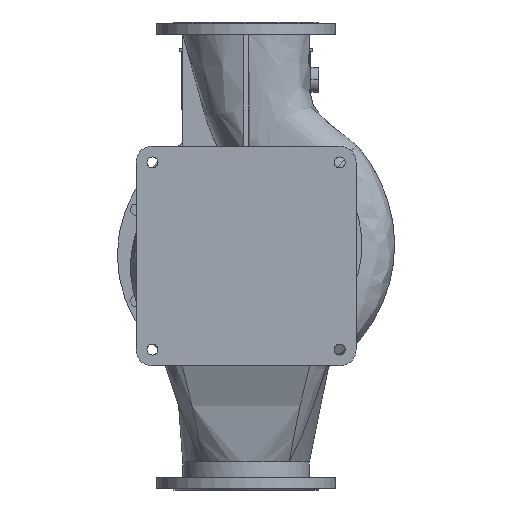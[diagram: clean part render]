
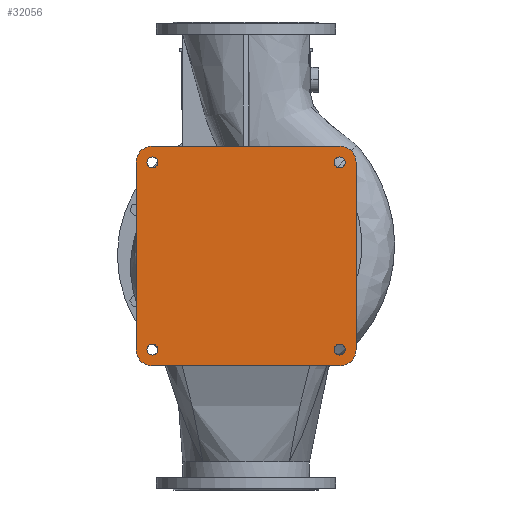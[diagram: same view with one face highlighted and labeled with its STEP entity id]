
A CAD part, front view. The second image highlights one B-rep face of the part: STEP entity #32056.
In plain terms, the highlighted planar face has unit normal (0, -1, 0).
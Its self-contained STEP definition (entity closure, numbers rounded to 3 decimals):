
#319 = ORIENTED_EDGE ( 'NONE', *, *, #35698, .F. ) ;
#1042 = CIRCLE ( 'NONE', #11789, 42. ) ;
#1103 = FACE_OUTER_BOUND ( 'NONE', #26107, .T. ) ;
#1633 = LINE ( 'NONE', #1826, #21418 ) ;
#1659 = CARTESIAN_POINT ( 'NONE',  ( -240., -290., 226. ) ) ;
#1826 = CARTESIAN_POINT ( 'NONE',  ( 240., -290., 282. ) ) ;
#1848 = VECTOR ( 'NONE', #17960, 1000. ) ;
#1881 = VERTEX_POINT ( 'NONE', #4275 ) ;
#2366 = ORIENTED_EDGE ( 'NONE', *, *, #20166, .T. ) ;
#2645 = EDGE_LOOP ( 'NONE', ( #7158, #16593 ) ) ;
#3007 = DIRECTION ( 'NONE',  ( 0., 1., 0. ) ) ;
#3057 = VERTEX_POINT ( 'NONE', #34035 ) ;
#3135 = CARTESIAN_POINT ( 'NONE',  ( 240., -290., 240. ) ) ;
#3471 = CIRCLE ( 'NONE', #14840, 14. ) ;
#3566 = CARTESIAN_POINT ( 'NONE',  ( 240., -290., -282. ) ) ;
#3979 = EDGE_LOOP ( 'NONE', ( #5306, #2366 ) ) ;
#4050 = EDGE_CURVE ( 'NONE', #24872, #20059, #33347, .T. ) ;
#4093 = FACE_BOUND ( 'NONE', #31628, .T. ) ;
#4147 = CARTESIAN_POINT ( 'NONE',  ( 240., -290., 226. ) ) ;
#4275 = CARTESIAN_POINT ( 'NONE',  ( 282., -290., 240. ) ) ;
#4721 = DIRECTION ( 'NONE',  ( 0., 1., 0. ) ) ;
#4808 = ORIENTED_EDGE ( 'NONE', *, *, #9097, .F. ) ;
#4872 = DIRECTION ( 'NONE',  ( 0., 0., -1. ) ) ;
#4981 = CARTESIAN_POINT ( 'NONE',  ( -240., -290., -254. ) ) ;
#5306 = ORIENTED_EDGE ( 'NONE', *, *, #35617, .T. ) ;
#5307 = VECTOR ( 'NONE', #32111, 1000. ) ;
#5351 = EDGE_CURVE ( 'NONE', #19913, #24872, #1042, .T. ) ;
#6454 = CARTESIAN_POINT ( 'NONE',  ( 282., -290., -240. ) ) ;
#7158 = ORIENTED_EDGE ( 'NONE', *, *, #8597, .T. ) ;
#7234 = CARTESIAN_POINT ( 'NONE',  ( -282., -290., -240. ) ) ;
#7236 = CARTESIAN_POINT ( 'NONE',  ( -240., -290., 254. ) ) ;
#7595 = AXIS2_PLACEMENT_3D ( 'NONE', #23559, #9318, #9498 ) ;
#7682 = DIRECTION ( 'NONE',  ( 0., 1., 0. ) ) ;
#7965 = AXIS2_PLACEMENT_3D ( 'NONE', #32744, #34826, #12161 ) ;
#8457 = VERTEX_POINT ( 'NONE', #4147 ) ;
#8597 = EDGE_CURVE ( 'NONE', #30197, #17224, #26234, .T. ) ;
#9097 = EDGE_CURVE ( 'NONE', #1881, #19913, #20901, .T. ) ;
#9156 = LINE ( 'NONE', #20773, #1848 ) ;
#9318 = DIRECTION ( 'NONE',  ( 0., 1., 0. ) ) ;
#9415 = DIRECTION ( 'NONE',  ( 0., 1., 0. ) ) ;
#9498 = DIRECTION ( 'NONE',  ( 0., 0., 1. ) ) ;
#9894 = FACE_BOUND ( 'NONE', #2645, .T. ) ;
#10063 = AXIS2_PLACEMENT_3D ( 'NONE', #16325, #19874, #27754 ) ;
#10108 = VERTEX_POINT ( 'NONE', #7236 ) ;
#10268 = DIRECTION ( 'NONE',  ( 0., 1., 0. ) ) ;
#10559 = EDGE_CURVE ( 'NONE', #8457, #34090, #18556, .T. ) ;
#10857 = CARTESIAN_POINT ( 'NONE',  ( -240., -290., 240. ) ) ;
#11512 = VERTEX_POINT ( 'NONE', #36256 ) ;
#11789 = AXIS2_PLACEMENT_3D ( 'NONE', #28677, #3007, #25867 ) ;
#12161 = DIRECTION ( 'NONE',  ( 0., 0., -1. ) ) ;
#13139 = CARTESIAN_POINT ( 'NONE',  ( 282., -290., -240. ) ) ;
#13177 = AXIS2_PLACEMENT_3D ( 'NONE', #10857, #7682, #4872 ) ;
#13189 = CARTESIAN_POINT ( 'NONE',  ( -282., -290., 240. ) ) ;
#13437 = DIRECTION ( 'NONE',  ( 1., 0., 0. ) ) ;
#13681 = EDGE_CURVE ( 'NONE', #20059, #17701, #32376, .T. ) ;
#13688 = DIRECTION ( 'NONE',  ( -1., 0., 0. ) ) ;
#13840 = CARTESIAN_POINT ( 'NONE',  ( -240., -290., 240. ) ) ;
#14352 = VERTEX_POINT ( 'NONE', #13189 ) ;
#14562 = DIRECTION ( 'NONE',  ( 0., 0., -1. ) ) ;
#14840 = AXIS2_PLACEMENT_3D ( 'NONE', #35922, #10268, #21701 ) ;
#14861 = DIRECTION ( 'NONE',  ( 0., 1., 0. ) ) ;
#15530 = FACE_BOUND ( 'NONE', #29962, .T. ) ;
#16325 = CARTESIAN_POINT ( 'NONE',  ( -240., -290., -240. ) ) ;
#16370 = DIRECTION ( 'NONE',  ( 0., 1., 0. ) ) ;
#16593 = ORIENTED_EDGE ( 'NONE', *, *, #20752, .T. ) ;
#17224 = VERTEX_POINT ( 'NONE', #24319 ) ;
#17701 = VERTEX_POINT ( 'NONE', #7234 ) ;
#17960 = DIRECTION ( 'NONE',  ( 0., 0., 1. ) ) ;
#18048 = DIRECTION ( 'NONE',  ( 0., 0., 1. ) ) ;
#18482 = CIRCLE ( 'NONE', #34008, 14. ) ;
#18556 = CIRCLE ( 'NONE', #23345, 14. ) ;
#18779 = CARTESIAN_POINT ( 'NONE',  ( -240., -290., 240. ) ) ;
#18839 = ORIENTED_EDGE ( 'NONE', *, *, #4050, .F. ) ;
#18964 = CIRCLE ( 'NONE', #7595, 14. ) ;
#19794 = ORIENTED_EDGE ( 'NONE', *, *, #23465, .T. ) ;
#19874 = DIRECTION ( 'NONE',  ( 0., 1., 0. ) ) ;
#19875 = CARTESIAN_POINT ( 'NONE',  ( -240., -290., -282. ) ) ;
#19913 = VERTEX_POINT ( 'NONE', #13139 ) ;
#20059 = VERTEX_POINT ( 'NONE', #19875 ) ;
#20166 = EDGE_CURVE ( 'NONE', #34890, #3057, #34469, .T. ) ;
#20480 = EDGE_CURVE ( 'NONE', #10108, #29487, #23136, .T. ) ;
#20618 = DIRECTION ( 'NONE',  ( 0., 1., 0. ) ) ;
#20752 = EDGE_CURVE ( 'NONE', #17224, #30197, #18964, .T. ) ;
#20773 = CARTESIAN_POINT ( 'NONE',  ( -282., -290., -240. ) ) ;
#20840 = CIRCLE ( 'NONE', #36380, 42. ) ;
#20901 = LINE ( 'NONE', #6454, #5307 ) ;
#20972 = CIRCLE ( 'NONE', #13177, 42. ) ;
#21313 = ORIENTED_EDGE ( 'NONE', *, *, #26946, .F. ) ;
#21329 = PLANE ( 'NONE',  #7965 ) ;
#21401 = DIRECTION ( 'NONE',  ( 0., 0., 1. ) ) ;
#21418 = VECTOR ( 'NONE', #13437, 1000. ) ;
#21701 = DIRECTION ( 'NONE',  ( 0., 0., 1. ) ) ;
#21806 = DIRECTION ( 'NONE',  ( 0., 0., 1. ) ) ;
#22690 = EDGE_CURVE ( 'NONE', #11512, #27447, #1633, .T. ) ;
#23136 = CIRCLE ( 'NONE', #27303, 14. ) ;
#23253 = CARTESIAN_POINT ( 'NONE',  ( 240., -290., 254. ) ) ;
#23330 = EDGE_CURVE ( 'NONE', #34090, #8457, #26840, .T. ) ;
#23345 = AXIS2_PLACEMENT_3D ( 'NONE', #33590, #16370, #21806 ) ;
#23465 = EDGE_CURVE ( 'NONE', #29487, #10108, #18482, .T. ) ;
#23559 = CARTESIAN_POINT ( 'NONE',  ( -240., -290., -240. ) ) ;
#23954 = FACE_BOUND ( 'NONE', #3979, .T. ) ;
#24118 = ORIENTED_EDGE ( 'NONE', *, *, #27344, .F. ) ;
#24319 = CARTESIAN_POINT ( 'NONE',  ( -240., -290., -226. ) ) ;
#24610 = AXIS2_PLACEMENT_3D ( 'NONE', #29286, #14861, #32079 ) ;
#24872 = VERTEX_POINT ( 'NONE', #3566 ) ;
#25867 = DIRECTION ( 'NONE',  ( 0., 0., -1. ) ) ;
#26107 = EDGE_LOOP ( 'NONE', ( #27733, #4808, #319, #26517, #21313, #24118, #26329, #18839 ) ) ;
#26234 = CIRCLE ( 'NONE', #10063, 14. ) ;
#26240 = AXIS2_PLACEMENT_3D ( 'NONE', #32265, #9415, #18048 ) ;
#26329 = ORIENTED_EDGE ( 'NONE', *, *, #13681, .F. ) ;
#26517 = ORIENTED_EDGE ( 'NONE', *, *, #22690, .F. ) ;
#26840 = CIRCLE ( 'NONE', #26240, 14. ) ;
#26946 = EDGE_CURVE ( 'NONE', #14352, #11512, #20972, .T. ) ;
#27303 = AXIS2_PLACEMENT_3D ( 'NONE', #13840, #28264, #28077 ) ;
#27344 = EDGE_CURVE ( 'NONE', #17701, #14352, #9156, .T. ) ;
#27447 = VERTEX_POINT ( 'NONE', #33107 ) ;
#27733 = ORIENTED_EDGE ( 'NONE', *, *, #5351, .F. ) ;
#27754 = DIRECTION ( 'NONE',  ( 0., 0., 1. ) ) ;
#27928 = CARTESIAN_POINT ( 'NONE',  ( -240., -290., -282. ) ) ;
#28077 = DIRECTION ( 'NONE',  ( 0., 0., 1. ) ) ;
#28264 = DIRECTION ( 'NONE',  ( 0., 1., 0. ) ) ;
#28399 = VECTOR ( 'NONE', #13688, 1000. ) ;
#28677 = CARTESIAN_POINT ( 'NONE',  ( 240., -290., -240. ) ) ;
#28886 = CARTESIAN_POINT ( 'NONE',  ( 240., -290., -226. ) ) ;
#29196 = ORIENTED_EDGE ( 'NONE', *, *, #10559, .T. ) ;
#29286 = CARTESIAN_POINT ( 'NONE',  ( -240., -290., -240. ) ) ;
#29487 = VERTEX_POINT ( 'NONE', #1659 ) ;
#29954 = CARTESIAN_POINT ( 'NONE',  ( 240., -290., -240. ) ) ;
#29962 = EDGE_LOOP ( 'NONE', ( #29196, #32309 ) ) ;
#30197 = VERTEX_POINT ( 'NONE', #4981 ) ;
#31628 = EDGE_LOOP ( 'NONE', ( #19794, #35769 ) ) ;
#32056 = ADVANCED_FACE ( 'NONE', ( #4093, #23954, #1103, #15530, #9894 ), #21329, .T. ) ;
#32079 = DIRECTION ( 'NONE',  ( 0., 0., -1. ) ) ;
#32111 = DIRECTION ( 'NONE',  ( 0., 0., -1. ) ) ;
#32265 = CARTESIAN_POINT ( 'NONE',  ( 240., -290., 240. ) ) ;
#32309 = ORIENTED_EDGE ( 'NONE', *, *, #23330, .T. ) ;
#32376 = CIRCLE ( 'NONE', #24610, 42. ) ;
#32744 = CARTESIAN_POINT ( 'NONE',  ( 240., -290., -240. ) ) ;
#33107 = CARTESIAN_POINT ( 'NONE',  ( 240., -290., 282. ) ) ;
#33257 = AXIS2_PLACEMENT_3D ( 'NONE', #29954, #20618, #35201 ) ;
#33347 = LINE ( 'NONE', #27928, #28399 ) ;
#33590 = CARTESIAN_POINT ( 'NONE',  ( 240., -290., 240. ) ) ;
#33847 = DIRECTION ( 'NONE',  ( 0., 1., 0. ) ) ;
#34008 = AXIS2_PLACEMENT_3D ( 'NONE', #18779, #4721, #21401 ) ;
#34035 = CARTESIAN_POINT ( 'NONE',  ( 240., -290., -254. ) ) ;
#34090 = VERTEX_POINT ( 'NONE', #23253 ) ;
#34469 = CIRCLE ( 'NONE', #33257, 14. ) ;
#34826 = DIRECTION ( 'NONE',  ( 0., -1., 0. ) ) ;
#34890 = VERTEX_POINT ( 'NONE', #28886 ) ;
#35201 = DIRECTION ( 'NONE',  ( 0., 0., 1. ) ) ;
#35617 = EDGE_CURVE ( 'NONE', #3057, #34890, #3471, .T. ) ;
#35698 = EDGE_CURVE ( 'NONE', #27447, #1881, #20840, .T. ) ;
#35769 = ORIENTED_EDGE ( 'NONE', *, *, #20480, .T. ) ;
#35922 = CARTESIAN_POINT ( 'NONE',  ( 240., -290., -240. ) ) ;
#36256 = CARTESIAN_POINT ( 'NONE',  ( -240., -290., 282. ) ) ;
#36380 = AXIS2_PLACEMENT_3D ( 'NONE', #3135, #33847, #14562 ) ;
